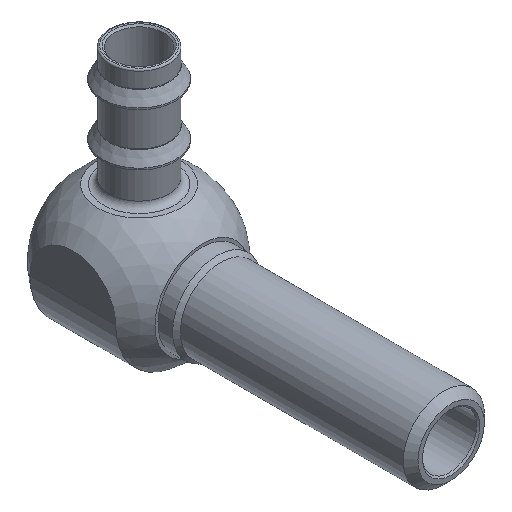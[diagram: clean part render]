
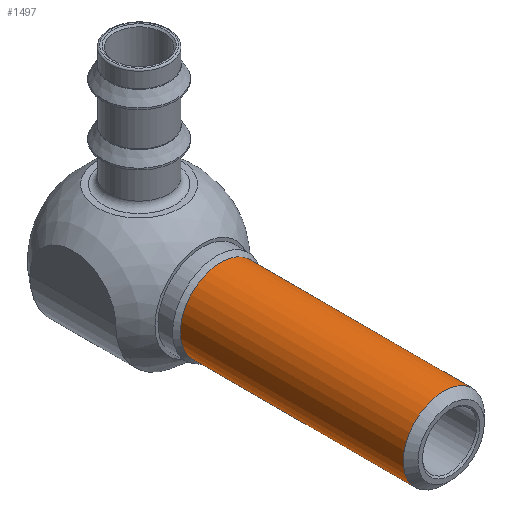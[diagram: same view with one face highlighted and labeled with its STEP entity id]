
A CAD part, isometric view. The second image highlights one B-rep face of the part: STEP entity #1497.
In plain terms, the highlighted cylindrical face has radius 6.516 mm (diameter 13.032 mm), a full revolution.
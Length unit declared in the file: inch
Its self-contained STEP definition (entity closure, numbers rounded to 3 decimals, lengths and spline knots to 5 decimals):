
#151=LINE('',#2800,#206);
#206=VECTOR('',#2263,0.27);
#228=CYLINDRICAL_SURFACE('',#1749,0.25654);
#302=FACE_OUTER_BOUND('',#400,.T.);
#400=EDGE_LOOP('',(#1349,#1350,#1351,#1352,#1353));
#554=CIRCLE('',#1745,0.25654);
#556=CIRCLE('',#1747,0.25654);
#557=CIRCLE('',#1750,0.25654);
#717=VERTEX_POINT('',#2789);
#718=VERTEX_POINT('',#2790);
#720=VERTEX_POINT('',#2798);
#933=EDGE_CURVE('',#717,#718,#554,.F.);
#936=EDGE_CURVE('',#718,#717,#556,.F.);
#937=EDGE_CURVE('',#720,#720,#557,.T.);
#938=EDGE_CURVE('',#720,#717,#151,.T.);
#1349=ORIENTED_EDGE('',*,*,#937,.F.);
#1350=ORIENTED_EDGE('',*,*,#938,.T.);
#1351=ORIENTED_EDGE('',*,*,#936,.F.);
#1352=ORIENTED_EDGE('',*,*,#933,.F.);
#1353=ORIENTED_EDGE('',*,*,#938,.F.);
#1497=ADVANCED_FACE('',(#302),#228,.T.);
#1745=AXIS2_PLACEMENT_3D('',#2791,#2250,#2251);
#1747=AXIS2_PLACEMENT_3D('',#2795,#2255,#2256);
#1749=AXIS2_PLACEMENT_3D('',#2797,#2259,#2260);
#1750=AXIS2_PLACEMENT_3D('',#2799,#2261,#2262);
#2250=DIRECTION('center_axis',(0.,1.,0.));
#2251=DIRECTION('ref_axis',(0.,0.,1.));
#2255=DIRECTION('center_axis',(0.,1.,0.));
#2256=DIRECTION('ref_axis',(0.,0.,1.));
#2259=DIRECTION('center_axis',(0.,1.,0.));
#2260=DIRECTION('ref_axis',(0.,0.,1.));
#2261=DIRECTION('center_axis',(0.,1.,0.));
#2262=DIRECTION('ref_axis',(0.,0.,1.));
#2263=DIRECTION('',(0.,-1.,0.));
#2789=CARTESIAN_POINT('',(0.,-1.52847,-0.25654));
#2790=CARTESIAN_POINT('',(0.,-1.52847,0.25653));
#2791=CARTESIAN_POINT('Origin',(0.,-1.52847,0.));
#2795=CARTESIAN_POINT('Origin',(0.,-1.52847,0.));
#2797=CARTESIAN_POINT('Origin',(0.,-0.8395,0.));
#2798=CARTESIAN_POINT('',(0.,-0.11746,-0.25654));
#2799=CARTESIAN_POINT('Origin',(0.,-0.11746,0.));
#2800=CARTESIAN_POINT('',(0.,-0.8395,-0.25654));
